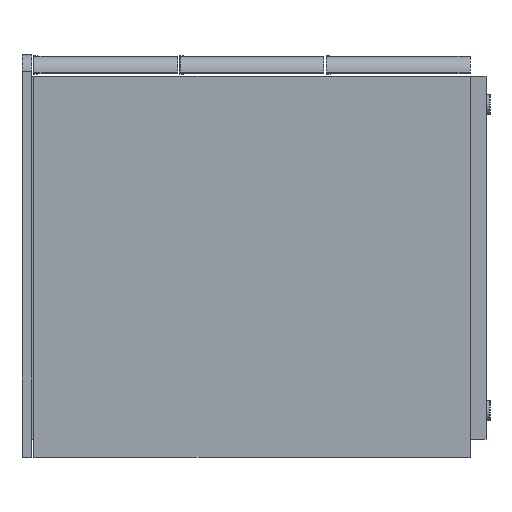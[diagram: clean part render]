
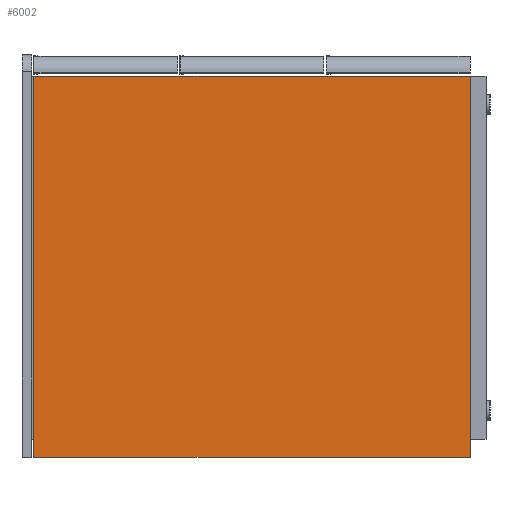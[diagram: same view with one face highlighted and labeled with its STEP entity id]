
A CAD part, left-side view. The second image highlights one B-rep face of the part: STEP entity #6002.
In plain terms, the highlighted planar face has unit normal (-1, 0, 0).
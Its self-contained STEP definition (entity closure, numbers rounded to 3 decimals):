
#49 = DIRECTION ( 'NONE',  ( 0., -1., 0. ) ) ;
#105 = VERTEX_POINT ( 'NONE', #4996 ) ;
#139 = DIRECTION ( 'NONE',  ( 0., 0., -1. ) ) ;
#233 = EDGE_CURVE ( 'NONE', #3354, #105, #4519, .T. ) ;
#445 = ORIENTED_EDGE ( 'NONE', *, *, #6404, .F. ) ;
#484 = VECTOR ( 'NONE', #1896, 1000. ) ;
#869 = DIRECTION ( 'NONE',  ( 0., 0., -1. ) ) ;
#929 = VERTEX_POINT ( 'NONE', #6280 ) ;
#943 = LINE ( 'NONE', #1887, #1024 ) ;
#1024 = VECTOR ( 'NONE', #869, 1000. ) ;
#1232 = LINE ( 'NONE', #4538, #484 ) ;
#1253 = AXIS2_PLACEMENT_3D ( 'NONE', #3500, #4513, #6361 ) ;
#1486 = EDGE_CURVE ( 'NONE', #5174, #929, #1232, .T. ) ;
#1578 = EDGE_LOOP ( 'NONE', ( #3303, #445, #3679, #4509 ) ) ;
#1716 = CARTESIAN_POINT ( 'NONE',  ( -594., 273.25, 238.75 ) ) ;
#1887 = CARTESIAN_POINT ( 'NONE',  ( -594., -273.25, 238.75 ) ) ;
#1896 = DIRECTION ( 'NONE',  ( 0., -1., 0. ) ) ;
#2536 = VECTOR ( 'NONE', #139, 1000. ) ;
#2823 = PLANE ( 'NONE',  #1253 ) ;
#3136 = EDGE_CURVE ( 'NONE', #5174, #3354, #5598, .T. ) ;
#3303 = ORIENTED_EDGE ( 'NONE', *, *, #233, .T. ) ;
#3354 = VERTEX_POINT ( 'NONE', #7125 ) ;
#3500 = CARTESIAN_POINT ( 'NONE',  ( -594., 273.25, 238.75 ) ) ;
#3679 = ORIENTED_EDGE ( 'NONE', *, *, #1486, .F. ) ;
#4107 = CARTESIAN_POINT ( 'NONE',  ( -594., 273.25, 238.75 ) ) ;
#4509 = ORIENTED_EDGE ( 'NONE', *, *, #3136, .T. ) ;
#4513 = DIRECTION ( 'NONE',  ( 1., 0., 0. ) ) ;
#4519 = LINE ( 'NONE', #5097, #5805 ) ;
#4538 = CARTESIAN_POINT ( 'NONE',  ( -594., 273.25, 238.75 ) ) ;
#4996 = CARTESIAN_POINT ( 'NONE',  ( -594., -273.25, -238.75 ) ) ;
#5097 = CARTESIAN_POINT ( 'NONE',  ( -594., 273.25, -238.75 ) ) ;
#5174 = VERTEX_POINT ( 'NONE', #4107 ) ;
#5598 = LINE ( 'NONE', #1716, #2536 ) ;
#5805 = VECTOR ( 'NONE', #49, 1000. ) ;
#6002 = ADVANCED_FACE ( 'NONE', ( #6865 ), #2823, .F. ) ;
#6280 = CARTESIAN_POINT ( 'NONE',  ( -594., -273.25, 238.75 ) ) ;
#6361 = DIRECTION ( 'NONE',  ( 0., 0., -1. ) ) ;
#6404 = EDGE_CURVE ( 'NONE', #929, #105, #943, .T. ) ;
#6865 = FACE_OUTER_BOUND ( 'NONE', #1578, .T. ) ;
#7125 = CARTESIAN_POINT ( 'NONE',  ( -594., 273.25, -238.75 ) ) ;
